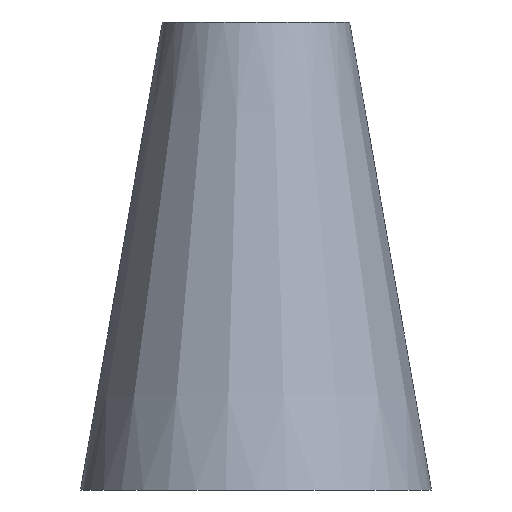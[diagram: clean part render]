
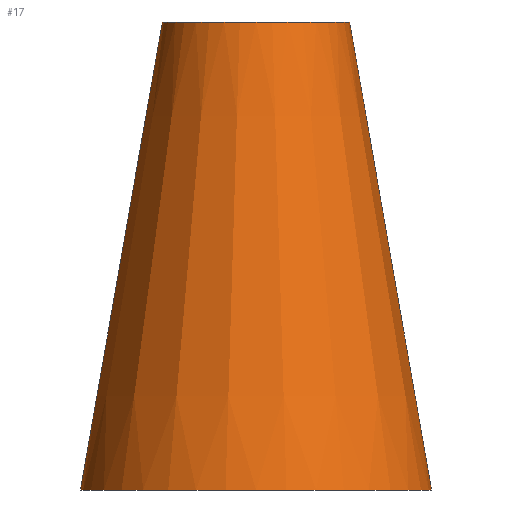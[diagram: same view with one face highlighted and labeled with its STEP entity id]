
A CAD part, front view. The second image highlights one B-rep face of the part: STEP entity #17.
In plain terms, the highlighted conical face has half-angle 9.926 degrees and reference radius 15 mm.
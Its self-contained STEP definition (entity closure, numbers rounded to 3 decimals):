
#17 = ADVANCED_FACE('',(#18),#31,.T.);
#18 = FACE_BOUND('',#19,.T.);
#19 = EDGE_LOOP('',(#20,#54,#77,#104));
#20 = ORIENTED_EDGE('',*,*,#21,.F.);
#21 = EDGE_CURVE('',#22,#22,#24,.T.);
#22 = VERTEX_POINT('',#23);
#23 = CARTESIAN_POINT('',(8.,0.,40.));
#24 = SURFACE_CURVE('',#25,(#30,#42),.PCURVE_S1.);
#25 = CIRCLE('',#26,8.);
#26 = AXIS2_PLACEMENT_3D('',#27,#28,#29);
#27 = CARTESIAN_POINT('',(0.,0.,40.));
#28 = DIRECTION('',(0.,0.,1.));
#29 = DIRECTION('',(1.,0.,-0.));
#30 = PCURVE('',#31,#36);
#31 = CONICAL_SURFACE('',#32,15.,0.173);
#32 = AXIS2_PLACEMENT_3D('',#33,#34,#35);
#33 = CARTESIAN_POINT('',(0.,0.,0.));
#34 = DIRECTION('',(-0.,-0.,-1.));
#35 = DIRECTION('',(1.,0.,-0.));
#36 = DEFINITIONAL_REPRESENTATION('',(#37),#41);
#37 = LINE('',#38,#39);
#38 = CARTESIAN_POINT('',(-0.,-40.));
#39 = VECTOR('',#40,1.);
#40 = DIRECTION('',(-1.,-0.));
#41 = ( GEOMETRIC_REPRESENTATION_CONTEXT(2) 
PARAMETRIC_REPRESENTATION_CONTEXT() REPRESENTATION_CONTEXT('2D SPACE',''
  ) );
#42 = PCURVE('',#43,#48);
#43 = PLANE('',#44);
#44 = AXIS2_PLACEMENT_3D('',#45,#46,#47);
#45 = CARTESIAN_POINT('',(0.,0.,40.));
#46 = DIRECTION('',(0.,0.,1.));
#47 = DIRECTION('',(1.,0.,-0.));
#48 = DEFINITIONAL_REPRESENTATION('',(#49),#53);
#49 = CIRCLE('',#50,8.);
#50 = AXIS2_PLACEMENT_2D('',#51,#52);
#51 = CARTESIAN_POINT('',(0.,0.));
#52 = DIRECTION('',(1.,0.));
#53 = ( GEOMETRIC_REPRESENTATION_CONTEXT(2) 
PARAMETRIC_REPRESENTATION_CONTEXT() REPRESENTATION_CONTEXT('2D SPACE',''
  ) );
#54 = ORIENTED_EDGE('',*,*,#55,.F.);
#55 = EDGE_CURVE('',#56,#22,#58,.T.);
#56 = VERTEX_POINT('',#57);
#57 = CARTESIAN_POINT('',(15.,0.,0.));
#58 = SEAM_CURVE('',#59,(#63,#70),.PCURVE_S1.);
#59 = LINE('',#60,#61);
#60 = CARTESIAN_POINT('',(15.,0.,0.));
#61 = VECTOR('',#62,1.);
#62 = DIRECTION('',(-0.172,0.,0.985));
#63 = PCURVE('',#31,#64);
#64 = DEFINITIONAL_REPRESENTATION('',(#65),#69);
#65 = LINE('',#66,#67);
#66 = CARTESIAN_POINT('',(-6.283,0.));
#67 = VECTOR('',#68,1.);
#68 = DIRECTION('',(-0.,-1.));
#69 = ( GEOMETRIC_REPRESENTATION_CONTEXT(2) 
PARAMETRIC_REPRESENTATION_CONTEXT() REPRESENTATION_CONTEXT('2D SPACE',''
  ) );
#70 = PCURVE('',#31,#71);
#71 = DEFINITIONAL_REPRESENTATION('',(#72),#76);
#72 = LINE('',#73,#74);
#73 = CARTESIAN_POINT('',(0.,-0.));
#74 = VECTOR('',#75,1.);
#75 = DIRECTION('',(-0.,-1.));
#76 = ( GEOMETRIC_REPRESENTATION_CONTEXT(2) 
PARAMETRIC_REPRESENTATION_CONTEXT() REPRESENTATION_CONTEXT('2D SPACE',''
  ) );
#77 = ORIENTED_EDGE('',*,*,#78,.T.);
#78 = EDGE_CURVE('',#56,#56,#79,.T.);
#79 = SURFACE_CURVE('',#80,(#85,#92),.PCURVE_S1.);
#80 = CIRCLE('',#81,15.);
#81 = AXIS2_PLACEMENT_3D('',#82,#83,#84);
#82 = CARTESIAN_POINT('',(0.,0.,0.));
#83 = DIRECTION('',(0.,0.,1.));
#84 = DIRECTION('',(1.,0.,-0.));
#85 = PCURVE('',#31,#86);
#86 = DEFINITIONAL_REPRESENTATION('',(#87),#91);
#87 = LINE('',#88,#89);
#88 = CARTESIAN_POINT('',(-0.,-0.));
#89 = VECTOR('',#90,1.);
#90 = DIRECTION('',(-1.,-0.));
#91 = ( GEOMETRIC_REPRESENTATION_CONTEXT(2) 
PARAMETRIC_REPRESENTATION_CONTEXT() REPRESENTATION_CONTEXT('2D SPACE',''
  ) );
#92 = PCURVE('',#93,#98);
#93 = PLANE('',#94);
#94 = AXIS2_PLACEMENT_3D('',#95,#96,#97);
#95 = CARTESIAN_POINT('',(0.,0.,0.));
#96 = DIRECTION('',(0.,0.,1.));
#97 = DIRECTION('',(1.,0.,-0.));
#98 = DEFINITIONAL_REPRESENTATION('',(#99),#103);
#99 = CIRCLE('',#100,15.);
#100 = AXIS2_PLACEMENT_2D('',#101,#102);
#101 = CARTESIAN_POINT('',(0.,0.));
#102 = DIRECTION('',(1.,0.));
#103 = ( GEOMETRIC_REPRESENTATION_CONTEXT(2) 
PARAMETRIC_REPRESENTATION_CONTEXT() REPRESENTATION_CONTEXT('2D SPACE',''
  ) );
#104 = ORIENTED_EDGE('',*,*,#55,.T.);
